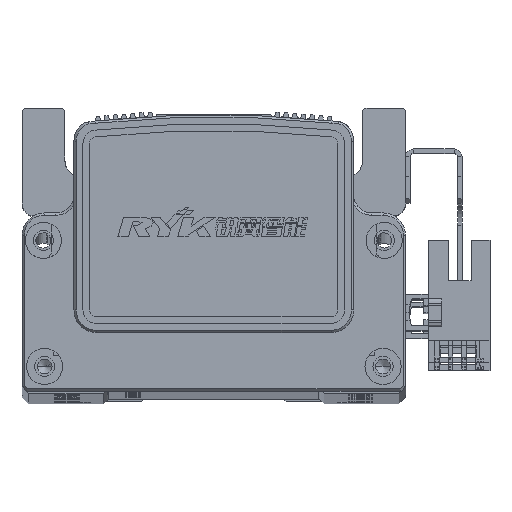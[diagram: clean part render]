
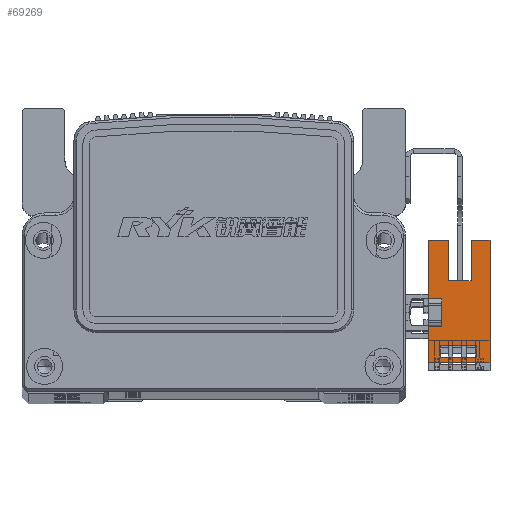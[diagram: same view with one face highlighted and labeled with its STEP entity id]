
A CAD part, top view. The second image highlights one B-rep face of the part: STEP entity #69269.
In plain terms, the highlighted planar face has unit normal (0, 0, 1) as drawn and (1, 0, 0) by its records, which use the part's own axes.
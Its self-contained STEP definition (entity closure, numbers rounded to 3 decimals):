
#5360 = EDGE_CURVE ( 'NONE', #46666, #46663, #50847, .T. ) ;
#5478 = EDGE_CURVE ( 'NONE', #46754, #46637, #51001, .T. ) ;
#5490 = EDGE_CURVE ( 'NONE', #46740, #46667, #50990, .T. ) ;
#5518 = EDGE_CURVE ( 'NONE', #46822, #46771, #50977, .T. ) ;
#5523 = EDGE_CURVE ( 'NONE', #46765, #46773, #50971, .T. ) ;
#5525 = EDGE_CURVE ( 'NONE', #46787, #46745, #51061, .T. ) ;
#5534 = EDGE_CURVE ( 'NONE', #46766, #46765, #51068, .T. ) ;
#5579 = EDGE_CURVE ( 'NONE', #46775, #46740, #51028, .T. ) ;
#5581 = EDGE_CURVE ( 'NONE', #46775, #46754, #51075, .T. ) ;
#5585 = EDGE_CURVE ( 'NONE', #46745, #46666, #51048, .T. ) ;
#5595 = EDGE_CURVE ( 'NONE', #46667, #46787, #51046, .T. ) ;
#5609 = EDGE_CURVE ( 'NONE', #46637, #46822, #51122, .T. ) ;
#5614 = EDGE_CURVE ( 'NONE', #46771, #46774, #51144, .T. ) ;
#5644 = EDGE_CURVE ( 'NONE', #46702, #46766, #51114, .T. ) ;
#5645 = EDGE_CURVE ( 'NONE', #46773, #46702, #51106, .T. ) ;
#5694 = EDGE_CURVE ( 'NONE', #46774, #46663, #51181, .T. ) ;
#38345 = EDGE_LOOP ( 'NONE', ( #48485, #48460, #48479, #48445 ) ) ;
#38358 = EDGE_LOOP ( 'NONE', ( #48491, #48467, #48421, #48409, #48456, #48501, #48442, #48475, #48448, #48322, #48427, #48463 ) ) ;
#39534 = CARTESIAN_POINT ( 'NONE',  ( 3.2, 16.1, 3. ) ) ;
#39542 = CARTESIAN_POINT ( 'NONE',  ( 3.2, 3.1, 3. ) ) ;
#39562 = CARTESIAN_POINT ( 'NONE',  ( 3.2, 16.1, -6.5 ) ) ;
#39567 = CARTESIAN_POINT ( 'NONE',  ( 3.2, -3.1, 3. ) ) ;
#39598 = CARTESIAN_POINT ( 'NONE',  ( 3.2, -9.83, -7.7 ) ) ;
#39632 = CARTESIAN_POINT ( 'NONE',  ( 3.2, -3.1, 0. ) ) ;
#39636 = CARTESIAN_POINT ( 'NONE',  ( 3.2, 7.1, -1.5 ) ) ;
#39649 = CARTESIAN_POINT ( 'NONE',  ( 3.2, -11.1, -10.7 ) ) ;
#39654 = CARTESIAN_POINT ( 'NONE',  ( 3.2, -11.1, 3. ) ) ;
#39661 = CARTESIAN_POINT ( 'NONE',  ( 3.2, 16.1, -1.5 ) ) ;
#39666 = CARTESIAN_POINT ( 'NONE',  ( 3.2, -9.83, 0.3 ) ) ;
#39670 = CARTESIAN_POINT ( 'NONE',  ( 3.2, 3.1, 0. ) ) ;
#39675 = CARTESIAN_POINT ( 'NONE',  ( 3.2, -7.33, -7.7 ) ) ;
#39687 = CARTESIAN_POINT ( 'NONE',  ( 3.2, 16.1, -10.7 ) ) ;
#39689 = CARTESIAN_POINT ( 'NONE',  ( 3.2, -7.33, 0.3 ) ) ;
#39736 = CARTESIAN_POINT ( 'NONE',  ( 3.2, 7.1, -6.5 ) ) ;
#43258 = FACE_OUTER_BOUND ( 'NONE', #38358, .T. ) ;
#43286 = FACE_BOUND ( 'NONE', #38345, .T. ) ;
#45148 = AXIS2_PLACEMENT_3D ( 'NONE', #47121, #47126, #47136 ) ;
#46637 = VERTEX_POINT ( 'NONE', #39562 ) ;
#46663 = VERTEX_POINT ( 'NONE', #39534 ) ;
#46666 = VERTEX_POINT ( 'NONE', #39542 ) ;
#46667 = VERTEX_POINT ( 'NONE', #39567 ) ;
#46702 = VERTEX_POINT ( 'NONE', #39598 ) ;
#46740 = VERTEX_POINT ( 'NONE', #39654 ) ;
#46745 = VERTEX_POINT ( 'NONE', #39670 ) ;
#46754 = VERTEX_POINT ( 'NONE', #39687 ) ;
#46765 = VERTEX_POINT ( 'NONE', #39689 ) ;
#46766 = VERTEX_POINT ( 'NONE', #39675 ) ;
#46771 = VERTEX_POINT ( 'NONE', #39636 ) ;
#46773 = VERTEX_POINT ( 'NONE', #39666 ) ;
#46774 = VERTEX_POINT ( 'NONE', #39661 ) ;
#46775 = VERTEX_POINT ( 'NONE', #39649 ) ;
#46787 = VERTEX_POINT ( 'NONE', #39632 ) ;
#46822 = VERTEX_POINT ( 'NONE', #39736 ) ;
#47105 = PLANE ( 'NONE',  #45148 ) ;
#47121 = CARTESIAN_POINT ( 'NONE',  ( 3.2, 16.1, -10.7 ) ) ;
#47126 = DIRECTION ( 'NONE',  ( 1., 0., 0. ) ) ;
#47136 = DIRECTION ( 'NONE',  ( 0., 1., 0. ) ) ;
#48322 = ORIENTED_EDGE ( 'NONE', *, *, #5579, .F. ) ;
#48409 = ORIENTED_EDGE ( 'NONE', *, *, #5694, .T. ) ;
#48421 = ORIENTED_EDGE ( 'NONE', *, *, #5614, .T. ) ;
#48427 = ORIENTED_EDGE ( 'NONE', *, *, #5581, .T. ) ;
#48442 = ORIENTED_EDGE ( 'NONE', *, *, #5525, .F. ) ;
#48445 = ORIENTED_EDGE ( 'NONE', *, *, #5645, .F. ) ;
#48448 = ORIENTED_EDGE ( 'NONE', *, *, #5490, .F. ) ;
#48456 = ORIENTED_EDGE ( 'NONE', *, *, #5360, .F. ) ;
#48460 = ORIENTED_EDGE ( 'NONE', *, *, #5534, .F. ) ;
#48463 = ORIENTED_EDGE ( 'NONE', *, *, #5478, .T. ) ;
#48467 = ORIENTED_EDGE ( 'NONE', *, *, #5518, .T. ) ;
#48475 = ORIENTED_EDGE ( 'NONE', *, *, #5595, .F. ) ;
#48479 = ORIENTED_EDGE ( 'NONE', *, *, #5644, .F. ) ;
#48485 = ORIENTED_EDGE ( 'NONE', *, *, #5523, .F. ) ;
#48491 = ORIENTED_EDGE ( 'NONE', *, *, #5609, .T. ) ;
#48501 = ORIENTED_EDGE ( 'NONE', *, *, #5585, .F. ) ;
#50847 = LINE ( 'NONE', #52168, #50848 ) ;
#50848 = VECTOR ( 'NONE', #52184, 1000. ) ;
#50971 = LINE ( 'NONE', #52417, #50996 ) ;
#50977 = LINE ( 'NONE', #52377, #51009 ) ;
#50987 = VECTOR ( 'NONE', #52360, 1000. ) ;
#50990 = LINE ( 'NONE', #52404, #51024 ) ;
#50996 = VECTOR ( 'NONE', #52436, 1000. ) ;
#51001 = LINE ( 'NONE', #52339, #50987 ) ;
#51009 = VECTOR ( 'NONE', #52412, 1000. ) ;
#51024 = VECTOR ( 'NONE', #52405, 1000. ) ;
#51028 = LINE ( 'NONE', #52458, #51076 ) ;
#51029 = VECTOR ( 'NONE', #52459, 1000. ) ;
#51046 = LINE ( 'NONE', #52519, #51051 ) ;
#51048 = LINE ( 'NONE', #51755, #51077 ) ;
#51051 = VECTOR ( 'NONE', #52520, 1000. ) ;
#51061 = LINE ( 'NONE', #52421, #51071 ) ;
#51062 = VECTOR ( 'NONE', #52440, 1000. ) ;
#51068 = LINE ( 'NONE', #52445, #51062 ) ;
#51071 = VECTOR ( 'NONE', #52410, 1000. ) ;
#51075 = LINE ( 'NONE', #52477, #51029 ) ;
#51076 = VECTOR ( 'NONE', #52451, 1000. ) ;
#51077 = VECTOR ( 'NONE', #51937, 1000. ) ;
#51106 = LINE ( 'NONE', #52554, #51121 ) ;
#51112 = VECTOR ( 'NONE', #52566, 1000. ) ;
#51114 = LINE ( 'NONE', #52553, #51112 ) ;
#51121 = VECTOR ( 'NONE', #52563, 1000. ) ;
#51122 = LINE ( 'NONE', #52525, #51147 ) ;
#51144 = LINE ( 'NONE', #52503, #51145 ) ;
#51145 = VECTOR ( 'NONE', #52517, 1000. ) ;
#51147 = VECTOR ( 'NONE', #52485, 1000. ) ;
#51181 = LINE ( 'NONE', #52643, #51219 ) ;
#51219 = VECTOR ( 'NONE', #52639, 1000. ) ;
#51755 = CARTESIAN_POINT ( 'NONE',  ( 3.2, 3.1, 3. ) ) ;
#51937 = DIRECTION ( 'NONE',  ( 0., 0., 1. ) ) ;
#52168 = CARTESIAN_POINT ( 'NONE',  ( 3.2, 16.1, 3. ) ) ;
#52184 = DIRECTION ( 'NONE',  ( 0., 1., 0. ) ) ;
#52339 = CARTESIAN_POINT ( 'NONE',  ( 3.2, 16.1, -10.7 ) ) ;
#52360 = DIRECTION ( 'NONE',  ( 0., 0., 1. ) ) ;
#52377 = CARTESIAN_POINT ( 'NONE',  ( 3.2, 7.1, -6.5 ) ) ;
#52404 = CARTESIAN_POINT ( 'NONE',  ( 3.2, 16.1, 3. ) ) ;
#52405 = DIRECTION ( 'NONE',  ( 0., 1., 0. ) ) ;
#52410 = DIRECTION ( 'NONE',  ( 0., 1., 0. ) ) ;
#52412 = DIRECTION ( 'NONE',  ( 0., 0., 1. ) ) ;
#52417 = CARTESIAN_POINT ( 'NONE',  ( 3.2, 16.1, 0.3 ) ) ;
#52421 = CARTESIAN_POINT ( 'NONE',  ( 3.2, 0., 0. ) ) ;
#52436 = DIRECTION ( 'NONE',  ( 0., -1., 0. ) ) ;
#52440 = DIRECTION ( 'NONE',  ( 0., 0., 1. ) ) ;
#52445 = CARTESIAN_POINT ( 'NONE',  ( 3.2, -7.33, -10.7 ) ) ;
#52451 = DIRECTION ( 'NONE',  ( 0., 0., 1. ) ) ;
#52458 = CARTESIAN_POINT ( 'NONE',  ( 3.2, -11.1, 3. ) ) ;
#52459 = DIRECTION ( 'NONE',  ( 0., 1., 0. ) ) ;
#52477 = CARTESIAN_POINT ( 'NONE',  ( 3.2, 16.1, -10.7 ) ) ;
#52485 = DIRECTION ( 'NONE',  ( 0., -1., 0. ) ) ;
#52503 = CARTESIAN_POINT ( 'NONE',  ( 3.2, 25.1, -1.5 ) ) ;
#52517 = DIRECTION ( 'NONE',  ( 0., 1., 0. ) ) ;
#52519 = CARTESIAN_POINT ( 'NONE',  ( 3.2, -3.1, 3. ) ) ;
#52520 = DIRECTION ( 'NONE',  ( 0., 0., -1. ) ) ;
#52525 = CARTESIAN_POINT ( 'NONE',  ( 3.2, 25.1, -6.5 ) ) ;
#52553 = CARTESIAN_POINT ( 'NONE',  ( 3.2, 16.1, -7.7 ) ) ;
#52554 = CARTESIAN_POINT ( 'NONE',  ( 3.2, -9.83, -10.7 ) ) ;
#52563 = DIRECTION ( 'NONE',  ( 0., 0., -1. ) ) ;
#52566 = DIRECTION ( 'NONE',  ( 0., 1., 0. ) ) ;
#52639 = DIRECTION ( 'NONE',  ( 0., 0., 1. ) ) ;
#52643 = CARTESIAN_POINT ( 'NONE',  ( 3.2, 16.1, -10.7 ) ) ;
#69269 = ADVANCED_FACE ( 'NONE', ( #43258, #43286 ), #47105, .T. ) ;
